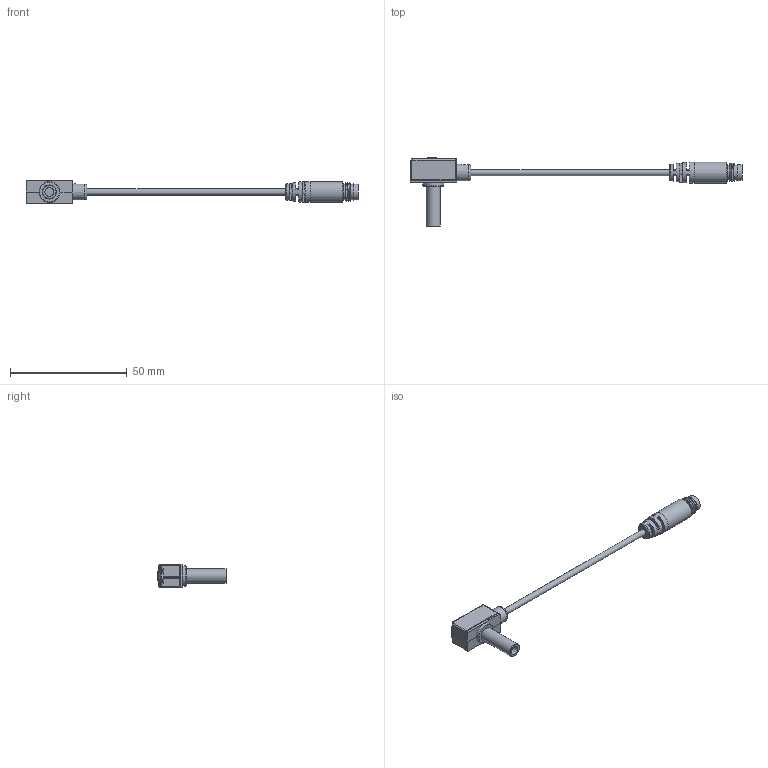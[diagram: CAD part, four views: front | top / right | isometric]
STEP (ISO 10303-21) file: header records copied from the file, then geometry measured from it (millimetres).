
FILE_DESCRIPTION(('STEP AP214'),'1');
FILE_NAME('82T6-N(P)C.stp','2026-04-16T05:00:44',(' '),(' '),'Spatial InterOp 3D',' ',' ');
FILE_SCHEMA(('AUTOMOTIVE_DESIGN { 1 0 10303 214 1 1 1 1 }'));
Length unit declared in the file: millimetre
Products named in the file (5): MPS-※82T6-N(P)C
Assembly tree (4 placements, depth 2):
  MPS-※82T6-N(P)C
    MPS-※82T6-N(P)C
    MPS-※82T6-N(P)C
    MPS-※82T6-N(P)C
    MPS-※82T6-N(P)C
Bounding box: 142 x 29.5 x 10 mm (x, y, z)
Volume: 2969.6 mm3; surface area: 5584.6 mm2
Topology: 3 solids, 6 shells, 540 faces, 1517 edges, 1016 vertices
Faces by surface type: plane 359, cylinder 140, cone 16, sphere 10, bspline 9, extrusion 4, torus 2
Full cylindrical faces by diameter (mm): 1 x5, 2.6 x1, 2.7 x1, 4.7 x1, 5 x1, 5.05 x1, 5.8 x1, 6 x1, 6.45 x1, 6.5 x1, 6.9 x1, 7.2 x1, 8.89 x1, 9 x1
Entity records: 23267 total; most frequent: CARTESIAN_POINT 5371, ORIENTED_EDGE 2855, DIRECTION 2576, EDGE_CURVE 1461, VECTOR 1056, LINE 1052, VERTEX_POINT 994, AXIS2_PLACEMENT_3D 760
